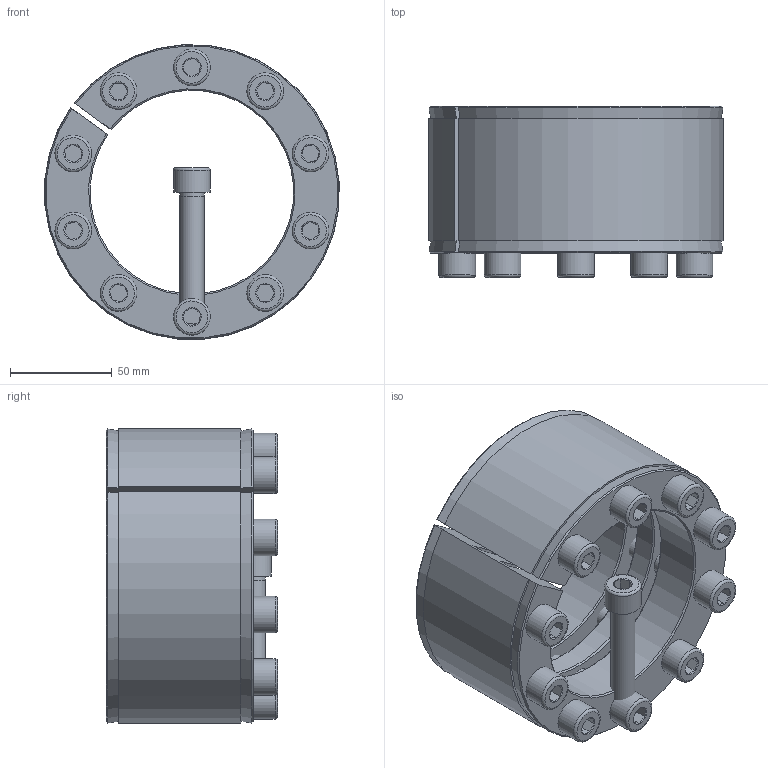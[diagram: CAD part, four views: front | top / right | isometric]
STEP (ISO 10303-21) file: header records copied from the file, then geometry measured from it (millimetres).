
FILE_DESCRIPTION( ( 'Unknown' ), '1' );
FILE_NAME( 'C:/Users/Frank/Eigene Daten/CAD/Solid Edge/KBK Karpstein/KBS Layout Baureihen/KBS 18/KBS - 100 x 145.stp', 'Unknown', ( 'Unknown' ), ( 'Unknown' ), 'XStep 1.0', 'Unknown', ' ' );
FILE_SCHEMA( ( 'automotive_design' ) );
Length unit declared in the file: millimetre
Products named in the file (3): Assem1; KBS 18 - 100 x 145; ISO EN DIN 4762 M12x65
Bounding box: 144.58 x 84 x 144.68 mm (x, y, z)
Volume: 1039242.9 mm3; surface area: 275270.1 mm2
Topology: 13 solids, 13 shells, 407 faces, 917 edges, 540 vertices
Faces by surface type: plane 172, cylinder 112, cone 101, torus 22
Full cylindrical faces by diameter (mm): 10.106 x20, 11 x11, 12 x22, 13 x40, 18 x11
Entity records: 3478 total; most frequent: CARTESIAN_POINT 859, DIRECTION 524, ORIENTED_EDGE 434, AXIS2_PLACEMENT_3D 244, EDGE_CURVE 217, EDGE_LOOP 172, VERTEX_POINT 151, CIRCLE 141
